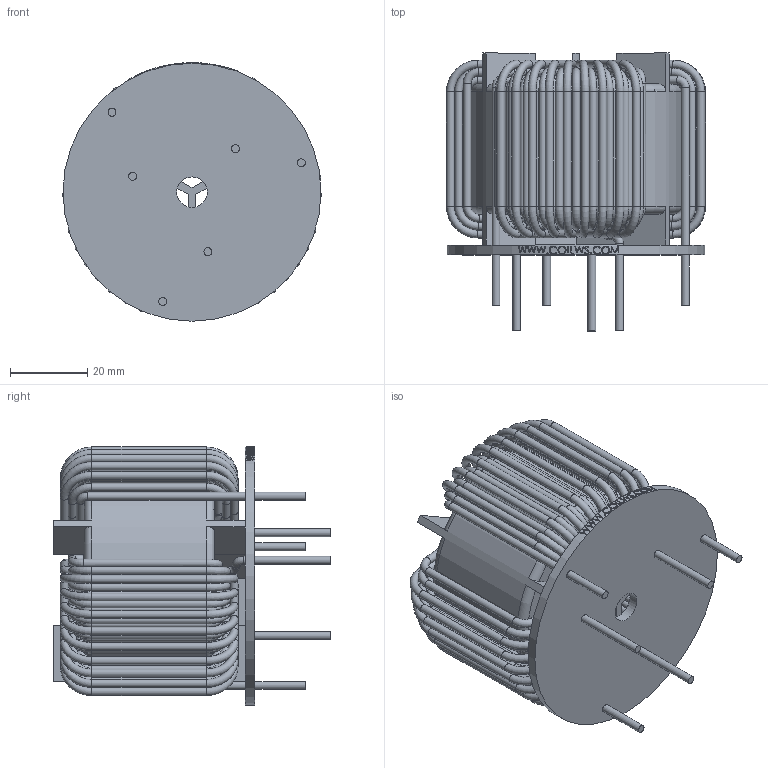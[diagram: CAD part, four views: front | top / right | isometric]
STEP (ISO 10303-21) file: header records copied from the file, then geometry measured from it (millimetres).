
FILE_DESCRIPTION (( 'STEP AP214' ), '1' );
FILE_NAME ('TPD-403U-B20A-SW-CWS.STEP', '2021-02-16T16:45:40', ( '' ), ( '' ), 'SwSTEP 2.0', 'SolidWorks 2015', '' );
FILE_SCHEMA (( 'AUTOMOTIVE_DESIGN' ));
Length unit declared in the file: inch
Products named in the file (9): TPD-403U-B20A-SW-CWS; TPD-403U-B20A-FRAME-SW; TPD-403U-B20A-CORE-SW; TPD-403U-B20A-COIL-SW; TPD-403U-B20A-SPACER-SW
Assembly tree (4 placements, depth 2):
  TPD-403U-B20A-SW-CWS
    TPD-403U-B20A-CORE-SW
    TPD-403U-B20A-COIL-SW
    TPD-403U-B20A-FRAME-SW
    TPD-403U-B20A-SPACER-SW
  TPD-403U-B20A-CORE-SW
  TPD-403U-B20A-FRAME-SW
  TPD-403U-B20A-COIL-SW
  TPD-403U-B20A-SPACER-SW
Bounding box: 66.88 x 71.72 x 66.7 mm (x, y, z)
Volume: 86435.2 mm3; surface area: 83028.7 mm2
Topology: 12 solids, 12 shells, 1226 faces, 3152 edges, 1850 vertices
Faces by surface type: cylinder 448, torus 354, bspline 280, plane 144
Full cylindrical faces by diameter (mm): 2.05 x375, 7.87 x1, 54.6 x1, 66.6 x1
Entity records: 53260 total; most frequent: CARTESIAN_POINT 20990, ORIENTED_EDGE 4346, DIRECTION 4309, EDGE_CURVE 2173, AXIS2_PLACEMENT_3D 2092, EDGE_LOOP 2015, FACE_OUTER_BOUND 1979, VERTEX_POINT 1624
